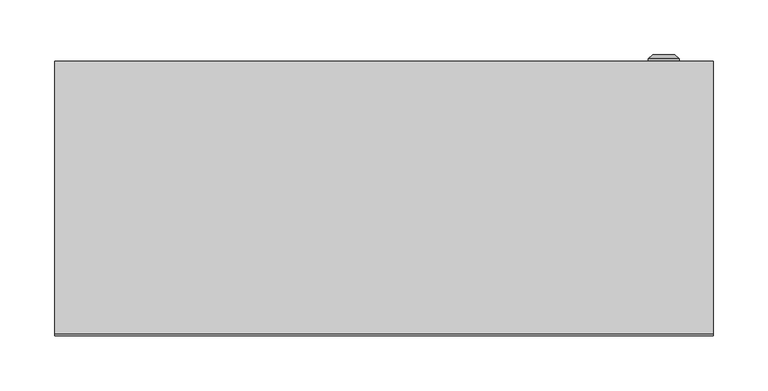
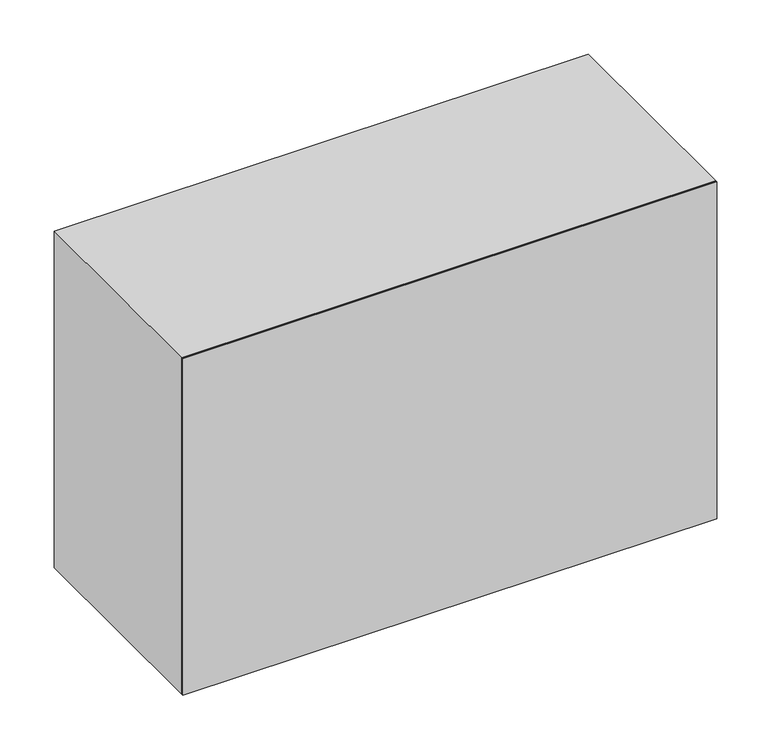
"""IFC4 building model written with IfcOpenShell, lengths in millimetres: proxy geometry, ЩМП : ЩМП-4.6.2-0_400х600х250."""

from ifc_helpers import new_model, si_unit, frame, origin, origin_with_axes, place, context, project, spatial, polyline, circle_curve, outline, extrude, source, transform, mapped, element, save
from ifc_brep_helpers import plane_surface, cylinder_surface, revolved_surface, advanced_brep


def electrical_equipment_f36b6810(model_context):
    return source(origin(), model_context, "Body", "SolidModel", [
        advanced_brep(
        [(240.669873, 250.0, 200.0), (269.330127, 250.0, 200.0), (255.0, 250.0, 200.0), (240.669873, 252.366592, 200.0), (269.330127, 252.366592, 200.0), (245.0, 256.0, 200.0), (265.0, 256.0, 200.0), (253.1080471, 256.0, 200.0), (256.8919529, 256.0, 200.0), (253.1080471, 254.9822294, 200.0), (256.8919529, 254.9822294, 200.0), (255.0, 254.9822294, 200.0)],
        [
            (0, 1, circle_curve(frame((255.0, 250.0, 200.0), z_axis=(0.0, -1.0, 0.0), x_axis=(1.0, 0.0, 0.0)), 14.330127)),
            (1, 2),
            (2, 0),
            (1, 0, circle_curve(frame((255.0, 250.0, 200.0), z_axis=(0.0, -1.0, 0.0), x_axis=(1.0, 0.0, 0.0)), 14.330127)),
            (3, 4, circle_curve(frame((255.0, 252.366592, 200.0), z_axis=(0.0, -1.0, 0.0), x_axis=(1.0, 0.0, 0.0)), 14.330127)),
            (4, 1),
            (0, 3),
            (4, 3, circle_curve(frame((255.0, 252.366592, 200.0), z_axis=(0.0, -1.0, 0.0), x_axis=(1.0, 0.0, 0.0)), 14.330127)),
            (5, 6, circle_curve(frame((255.0, 256.0, 200.0), z_axis=(0.0, -1.0, 0.0), x_axis=(1.0, 0.0, 0.0)), 10.0)),
            (6, 4),
            (3, 5),
            (6, 5, circle_curve(frame((255.0, 256.0, 200.0), z_axis=(0.0, -1.0, 0.0), x_axis=(1.0, 0.0, 0.0)), 10.0)),
            (7, 8, circle_curve(frame((255.0, 256.0, 200.0), z_axis=(0.0, -1.0, 0.0), x_axis=(1.0, 0.0, 0.0)), 1.8919529)),
            (8, 6),
            (5, 7),
            (8, 7, circle_curve(frame((255.0, 256.0, 200.0), z_axis=(0.0, -1.0, 0.0), x_axis=(1.0, 0.0, 0.0)), 1.8919529)),
            (9, 10, circle_curve(frame((255.0, 254.9822294, 200.0), z_axis=(0.0, -1.0, 0.0), x_axis=(1.0, 0.0, 0.0)), 1.8919529)),
            (10, 8),
            (7, 9),
            (10, 9, circle_curve(frame((255.0, 254.9822294, 200.0), z_axis=(0.0, -1.0, 0.0), x_axis=(1.0, 0.0, 0.0)), 1.8919529)),
            (11, 10),
            (9, 11),
        ],
        [
            plane_surface(frame((255.0, 250.0, 200.0), z_axis=(0.0, -1.0, 0.0), x_axis=(1.0, 0.0, 0.0))),
            cylinder_surface(frame((255.0, 263.1348851, 200.0), z_axis=(0.0, 1.0, 0.0), x_axis=(1.0, 0.0, 0.0)), 14.330127),
            revolved_surface(polyline([(269.330127, 252.366592, 200.0), (265.0, 256.0, 200.0)]), (255.0, 263.1348851, 200.0), (0.0, 1.0, 0.0)),
            plane_surface(frame((255.0, 256.0, 200.0), z_axis=(0.0, 1.0, 0.0), x_axis=(1.0, 0.0, 0.0))),
            revolved_surface(polyline([(256.8919529, 256.0, 200.0), (256.8919529, 254.9822294, 200.0)]), (255.0, 263.1348851, 200.0), (0.0, 1.0, 0.0)),
            plane_surface(frame((255.0, 254.9822294, 200.0), z_axis=(0.0, 1.0, 0.0), x_axis=(1.0, 0.0, 0.0))),
        ],
        [
            (0, [[1, 2, 3]]),
            (0, [[4, -3, -2]]),
            (1, [[5, 6, -1, 7]]),
            (1, [[8, -7, -4, -6]]),
            (2, [[9, 10, -5, 11]]),
            (2, [[12, -11, -8, -10]]),
            (3, [[13, 14, -9, 15]]),
            (3, [[16, -15, -12, -14]]),
            (4, [[17, 18, -13, 19]]),
            (4, [[20, -19, -16, -18]]),
            (5, [[21, -17, 22]]),
            (5, [[-22, -20, -21]]),
        ],
    ),
        extrude(outline(polyline([(281.5, 225.0), (-281.5, 225.0), (-281.5, 250.0), (281.5, 250.0), (281.5, 225.0)])), frame((0.0, 0.0, 18.5), z_axis=(0.0, 0.0, 1.0), x_axis=(1.0, 0.0, 0.0)), (0.0, 0.0, 1.0), 363.0),
        extrude(outline(polyline([(400.0, -300.0033905), (0.0, -300.0033905), (0.0, 299.9966095), (400.0, 299.9966095), (400.0, -300.0033905)]), holes=[polyline([(365.0, -265.0033905), (365.0, 264.9966095), (35.0, 264.9966095), (35.0, -265.0033905), (365.0, -265.0033905)])]), frame((0.0, 2.0, 0.0), z_axis=(0.0, 1.0, 0.0), x_axis=(0.0, 0.0, 1.0)), (0.0, 0.0, 1.0), 248.0),
        extrude(outline(polyline([(300.0, 0.0), (-300.0, 0.0), (-300.0, 2.0), (300.0, 2.0), (300.0, 0.0)])), origin_with_axes(), (0.0, 0.0, 1.0), 400.0),
    ])


if __name__ == "__main__":
    model = new_model("IFC4")
    model_context = context("Model", 3, world=origin())
    ifc_project = project(units=[si_unit("LENGTHUNIT", "METRE", prefix="MILLI")], contexts=[model_context])
    site = spatial("IfcSite", under=ifc_project)
    building = spatial("IfcBuilding", under=site)
    placement = place(None, origin())
    electrical_equipment_shape = electrical_equipment_f36b6810(model_context)
    element("IfcBuildingElementProxy", 1, Name="ЩМП : ЩМП-4.6.2-0_400х600х250", ObjectType="ЩМП : ЩМП-4.6.2-0_400х600х250", at=placement, inside=building, context=model_context, shape_type="MappedRepresentation", body=[
        mapped(electrical_equipment_shape, transform((0.0, 0.0, 0.0), x_axis=(1.0, 0.0, 0.0), y_axis=(0.0, 1.0, 0.0), z_axis=(0.0, 0.0, 1.0))),
    ])
    save(model, "model.ifc")
